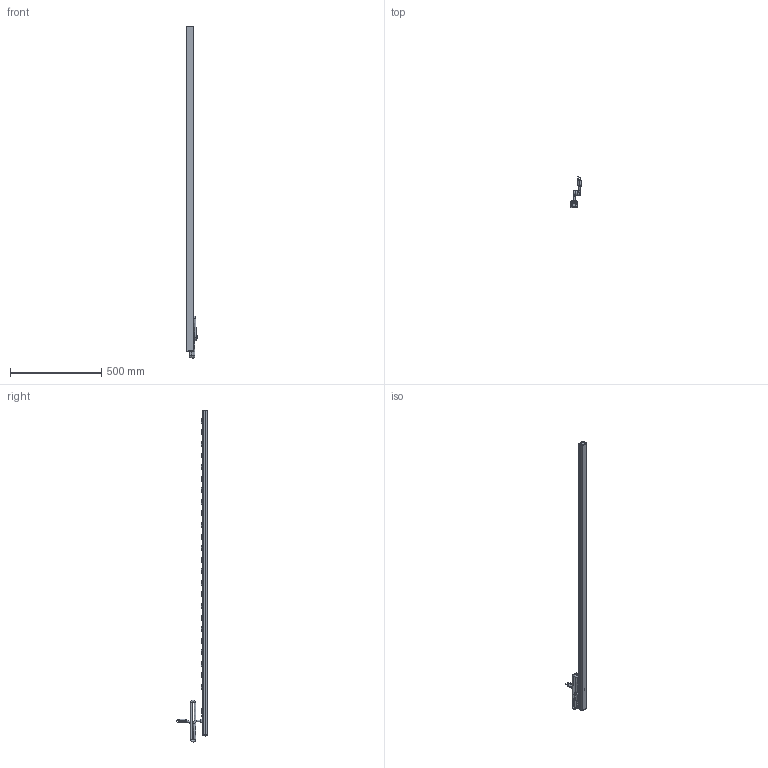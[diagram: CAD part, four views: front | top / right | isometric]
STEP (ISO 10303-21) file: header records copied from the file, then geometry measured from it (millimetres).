
FILE_DESCRIPTION((''),'2;1');
FILE_NAME('E:\Dutton\Manufacturing\drawings\Updated 2009\Vertical Rack Mount Strips\1587 Series\STEP''s\1587H24A1.stp','2010-01-19T14:26:58',('tfoster'),(''),'Autodesk Inventor 2010','Autodesk Inventor 2010','');
FILE_SCHEMA(('AUTOMOTIVE_DESIGN { 1 0 10303 214 1 1 1 1 }'));
Length unit declared in the file: inch
Products named in the file (14): 1587H24A1; 1587H24 top; 1587 bottom; End Cap; End Cap w breaker; Reset Switch; #6 - 0.375 Type A screw; Cored 2; toothwasher; round head 1-way 8-32 x 0.5 screw; Power Switch Assembly; Power Switch; Power Switch pt; Receptacle
Assembly tree (39 placements, depth 3):
  1587H24A1
    1587H24 top
    1587 bottom
    End Cap
    End Cap w breaker
    Reset Switch
    #6 - 0.375 Type A screw  x4
    Cored 2
    toothwasher
    round head 1-way 8-32 x 0.5 screw
    Power Switch Assembly
      Power Switch
      Power Switch pt
    Receptacle  x24
Bounding box: 60.19 x 170.82 x 1821.58 mm (x, y, z)
Volume: 825252.4 mm3; surface area: 719460.5 mm2
Topology: 38 solids, 38 shells, 1971 faces, 5318 edges, 3371 vertices
Faces by surface type: plane 1254, cylinder 420, bspline 139, sphere 102, cone 41, torus 15
Full cylindrical faces by diameter (mm): 1 x2, 1.803 x3, 1.905 x2, 3 x2, 3.175 x12, 4.3 x1, 4.775 x1, 4.826 x1, 7.849 x1, 9.5 x5, 11 x1, 15.621 x1, 19.05 x2
Entity records: 30139 total; most frequent: CARTESIAN_POINT 10212, ORIENTED_EDGE 4280, DIRECTION 3607, EDGE_CURVE 2140, VERTEX_POINT 1500, VECTOR 1311, LINE 1311, AXIS2_PLACEMENT_3D 1148
